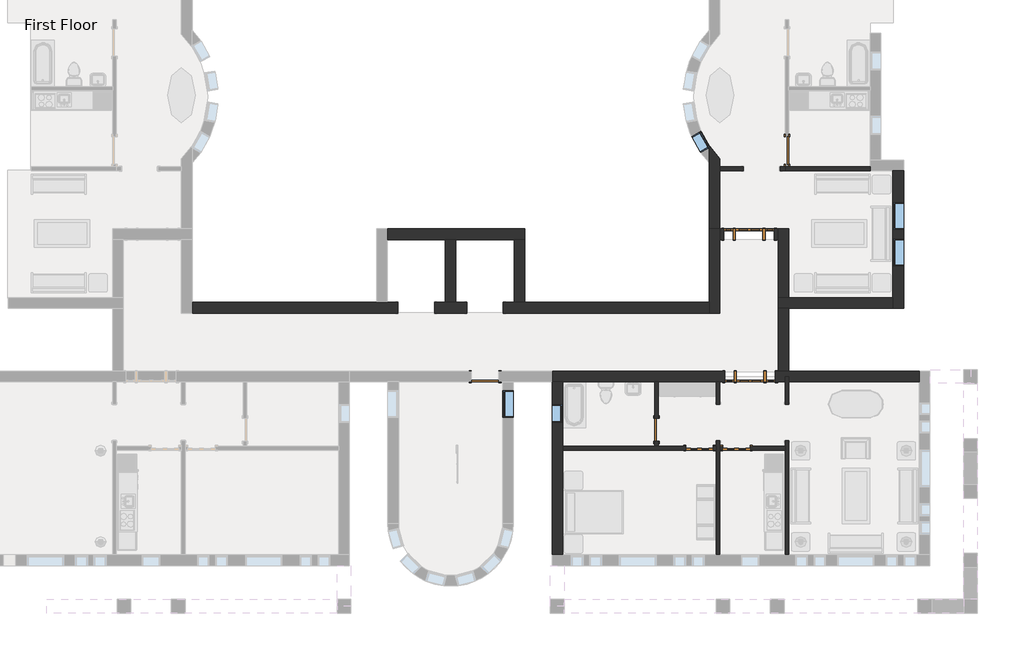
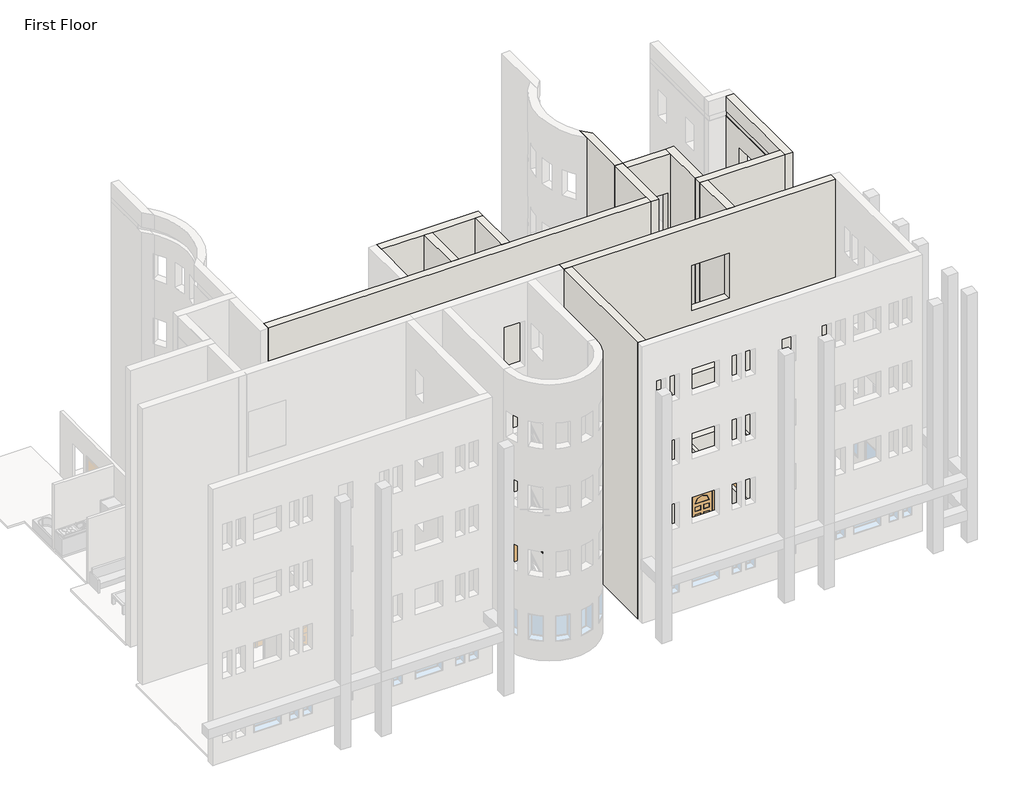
# One storey, part 6 of 24: 20 walls, 7 doors, 5 windows.
"""IFC4 building model written with IfcOpenShell, lengths in millimetres."""

from ifc_helpers import new_model, si_unit, frame, origin, origin_with_axes, place, context, project, spatial, polyline, circle_curve, outline, extrude, faceted_brep, transform, mapped, element, save
from ifc_brep_helpers import plane_surface, revolved_surface, advanced_brep
from components import door_829da954, door_2e3b4da2, door_e36758a9, door_a1797ceb, door_cc5399a4, door_dba5aa2e, door_ffdb1193, window_ed80354a, window_15c49d37, window_0e2fc6ce

model = new_model("IFC4")

# Units and contexts
model_context = context("Model", 3, world=origin())
ifc_project = project(units=[si_unit("LENGTHUNIT", "METRE", prefix="MILLI")], contexts=[model_context])

# Site, building, storey
site = spatial("IfcSite", under=ifc_project)
building = spatial("IfcBuilding", under=site)
storey = spatial("IfcBuildingStorey", under=building, Name="First Floor", Elevation=0.0)

# Doors
placement = place(None, origin())
door_shape = door_829da954(model_context)
element("IfcDoor", 1, ObjectType="Single-Decorative 2 : 36\" x 84\"", at=placement, inside=storey, context=model_context, shape_type="MappedRepresentation", body=[
    mapped(door_shape, transform((-6669.0589563, -30331.8808133, 0.0), x_axis=(1.0, 0.0, 0.0), y_axis=(0.0, 1.0, 0.0), z_axis=(0.0, 0.0, 1.0))),
])
door_2_shape = door_2e3b4da2(model_context)
element("IfcDoor", 2, ObjectType="Single-Decorative 2 : 36\" x 84\"", at=placement, inside=storey, context=model_context, shape_type="MappedRepresentation", body=[
    mapped(door_2_shape, transform((-5449.8589563, -30331.8808133, 0.0), x_axis=(-1.0, 0.0, 0.0), y_axis=(0.0, -1.0, 0.0), z_axis=(0.0, 0.0, 1.0))),
])
door_3_shape = door_e36758a9(model_context)
element("IfcDoor", 3, ObjectType="Single-Flush : 30\" x 84\"", at=placement, inside=storey, context=model_context, shape_type="MappedRepresentation", body=[
    mapped(door_3_shape, transform((-8105.7464563, -29722.2808133, 0.0), x_axis=(0.0, -1.0, 0.0), y_axis=(1.0, 0.0, 0.0), z_axis=(0.0, 0.0, 1.0))),
])
door_4_shape = door_a1797ceb(model_context)
element("IfcDoor", 4, ObjectType="Single-Flush : 36\" x 84\"", at=placement, inside=storey, context=model_context, shape_type="MappedRepresentation", body=[
    mapped(door_4_shape, transform((-3773.4589563, -20451.2808133, 0.0), x_axis=(0.0, -1.0, 0.0), y_axis=(1.0, 0.0, 0.0), z_axis=(0.0, 0.0, 1.0))),
])
door_5_shape = door_cc5399a4(model_context)
element("IfcDoor", 5, ObjectType="Single-Flush : 36\" x 84\"", at=placement, inside=storey, context=model_context, shape_type="MappedRepresentation", body=[
    mapped(door_5_shape, transform((-13792.1714563, -27958.5683133, 0.0), x_axis=(1.0, 0.0, 0.0), y_axis=(0.0, 1.0, 0.0), z_axis=(0.0, 0.0, 1.0))),
])
door_6_shape = door_dba5aa2e(model_context)
element("IfcDoor", 6, ObjectType="Single-Raised Panel with Sidelights : 36\" x 84\"", at=placement, inside=storey, context=model_context, shape_type="MappedRepresentation", body=[
    mapped(door_6_shape, transform((-5029.1714563, -23234.1683133, 0.0), x_axis=(-1.0, 0.0, 0.0), y_axis=(0.0, -1.0, 0.0), z_axis=(0.0, 0.0, 1.0))),
])
door_7_shape = door_ffdb1193(model_context)
element("IfcDoor", 7, ObjectType="Single-Raised Panel with Sidelights : 36\" x 84\"", at=placement, inside=storey, context=model_context, shape_type="MappedRepresentation", body=[
    mapped(door_7_shape, transform((-4992.6589563, -27958.5683133, 0.0), x_axis=(-1.0, 0.0, 0.0), y_axis=(0.0, -1.0, 0.0), z_axis=(0.0, 0.0, 1.0))),
])

# Walls
element("IfcWall", 8, ObjectType="Exterior - Brick on Mtl. Stud", at=placement, inside=storey, context=model_context, shape_type="Brep", body=[
    faceted_brep([(-5830.8589563, -27782.3558133, 2133.6), (-5830.8589563, -27782.3558133, 0.0), (-11571.2589563, -27782.3558133, 0.0), (-11571.2589563, -27782.3558133, 13106.4), (-4062.3839563, -27782.3558133, 13106.4), (-3709.9589563, -27782.3558133, 13106.4), (622.3285437, -27782.3558133, 13106.4), (622.3285437, -27782.3558133, 0.0), (-3709.9589563, -27782.3558133, 0.0), (-4062.3839563, -27782.3558133, 0.0), (-4154.4589563, -27782.3558133, 0.0), (-4154.4589563, -27782.3558133, 2133.6), (-4154.4589563, -27782.3558133, 6096.0), (-4154.4589563, -27782.3558133, 8229.6), (-5830.8589563, -27782.3558133, 8229.6), (-5830.8589563, -27782.3558133, 6096.0), (-4154.4589563, -27782.3558133, 3048.0), (-4154.4589563, -27782.3558133, 5181.6), (-5830.8589563, -27782.3558133, 5181.6), (-5830.8589563, -27782.3558133, 3048.0), (-4154.4589563, -27782.3558133, 9144.0), (-4154.4589563, -27782.3558133, 11277.6), (-5830.8589563, -27782.3558133, 11277.6), (-5830.8589563, -27782.3558133, 9144.0), (-11571.2589563, -28134.7808133, 0.0), (-11569.6714563, -28134.7808133, 0.0), (-11217.2464563, -28134.7808133, 0.0), (-8169.2464563, -28134.7808133, 0.0), (-8042.2464563, -28134.7808133, 0.0), (-6122.9589563, -28134.7808133, 0.0), (-5995.9589563, -28134.7808133, 0.0), (-5830.8589563, -28134.7808133, 0.0), (-5830.8589563, -28134.7808133, 2133.6), (-4154.4589563, -28134.7808133, 2133.6), (-4154.4589563, -28134.7808133, 0.0), (622.3285437, -28134.7808133, 0.0), (622.3285437, -28134.7808133, 13106.4), (-11217.2464563, -28134.7808133, 13106.4), (-11569.6714563, -28134.7808133, 13106.4), (-11571.2589563, -28134.7808133, 13106.4), (-4154.4589563, -28134.7808133, 6096.0), (-5830.8589563, -28134.7808133, 6096.0), (-5830.8589563, -28134.7808133, 8229.6), (-4154.4589563, -28134.7808133, 8229.6), (-4154.4589563, -28134.7808133, 3048.0), (-5830.8589563, -28134.7808133, 3048.0), (-5830.8589563, -28134.7808133, 5181.6), (-4154.4589563, -28134.7808133, 5181.6), (-4154.4589563, -28134.7808133, 9144.0), (-5830.8589563, -28134.7808133, 9144.0), (-5830.8589563, -28134.7808133, 11277.6), (-4154.4589563, -28134.7808133, 11277.6)], [[[0, 1, 2, 3, 4, 5, 6, 7, 8, 9, 10, 11], [12, 13, 14, 15], [16, 17, 18, 19], [20, 21, 22, 23]], [[24, 25, 26, 27, 28, 29, 30, 31, 32, 33, 34, 35, 36, 37, 38, 39], [40, 41, 42, 43], [44, 45, 46, 47], [48, 49, 50, 51]], [[2, 1, 31, 30, 29, 28, 27, 26, 25, 24]], [[10, 9, 8, 7, 35, 34]], [[3, 2, 24, 39]], [[6, 5, 4, 3, 39, 38, 37, 36]], [[7, 6, 36, 35]], [[32, 31, 1, 0]], [[33, 32, 0, 11]], [[34, 33, 11, 10]], [[41, 40, 12, 15]], [[42, 41, 15, 14]], [[43, 42, 14, 13]], [[40, 43, 13, 12]], [[45, 44, 16, 19]], [[46, 45, 19, 18]], [[47, 46, 18, 17]], [[44, 47, 17, 16]], [[49, 48, 20, 23]], [[50, 49, 23, 22]], [[51, 50, 22, 21]], [[48, 51, 21, 20]]]),
])
element("IfcWall", 9, ObjectType="Exterior - Brick on Mtl. Stud", at=placement, inside=storey, context=model_context, shape_type="Brep", body=[
    faceted_brep([(-11569.6714563, -28134.7808133, 0.0), (-11569.6714563, -33878.3558133, 0.0), (-11569.6714563, -33878.3558133, 13106.4), (-11569.6714563, -28134.7808133, 13106.4), (-11569.6714563, -28872.9683133, 8229.6), (-11569.6714563, -29482.5683133, 8229.6), (-11569.6714563, -29482.5683133, 7010.4), (-11569.6714563, -28872.9683133, 7010.4), (-11569.6714563, -28872.9683133, 5181.6), (-11569.6714563, -29482.5683133, 5181.6), (-11569.6714563, -29482.5683133, 3962.4), (-11569.6714563, -28872.9683133, 3962.4), (-11569.6714563, -28872.9683133, 11277.6), (-11569.6714563, -29482.5683133, 11277.6), (-11569.6714563, -29482.5683133, 10058.4), (-11569.6714563, -28872.9683133, 10058.4), (-11569.6714563, -28872.9683133, 2133.6), (-11569.6714563, -29482.5683133, 2133.6), (-11569.6714563, -29482.5683133, 914.4), (-11569.6714563, -28872.9683133, 914.4), (-11217.2464563, -28134.7808133, 0.0), (-11217.2464563, -28134.7808133, 13106.4), (-11217.2464563, -33878.3558133, 13106.4), (-11217.2464563, -33878.3558133, 0.0), (-11217.2464563, -30395.3808133, 0.0), (-11217.2464563, -30268.3808133, 0.0), (-11217.2464563, -28872.9683133, 8229.6), (-11217.2464563, -28872.9683133, 7010.4), (-11217.2464563, -29482.5683133, 7010.4), (-11217.2464563, -29482.5683133, 8229.6), (-11217.2464563, -28872.9683133, 5181.6), (-11217.2464563, -28872.9683133, 3962.4), (-11217.2464563, -29482.5683133, 3962.4), (-11217.2464563, -29482.5683133, 5181.6), (-11217.2464563, -28872.9683133, 11277.6), (-11217.2464563, -28872.9683133, 10058.4), (-11217.2464563, -29482.5683133, 10058.4), (-11217.2464563, -29482.5683133, 11277.6), (-11217.2464563, -28872.9683133, 2133.6), (-11217.2464563, -28872.9683133, 914.4), (-11217.2464563, -29482.5683133, 914.4), (-11217.2464563, -29482.5683133, 2133.6), (-11382.3464563, -28134.7808133, 0.0), (-11382.3464563, -33878.3558133, 0.0)], [[[0, 1, 2, 3], [4, 5, 6, 7], [8, 9, 10, 11], [12, 13, 14, 15], [16, 17, 18, 19]], [[20, 21, 22, 23, 24, 25], [26, 27, 28, 29], [30, 31, 32, 33], [34, 35, 36, 37], [38, 39, 40, 41]], [[3, 2, 22, 21]], [[0, 3, 21, 20, 42]], [[2, 1, 43, 23, 22]], [[1, 0, 42, 43]], [[42, 20, 25, 24, 23, 43]], [[27, 26, 4, 7]], [[28, 27, 7, 6]], [[29, 28, 6, 5]], [[26, 29, 5, 4]], [[31, 30, 8, 11]], [[32, 31, 11, 10]], [[33, 32, 10, 9]], [[30, 33, 9, 8]], [[35, 34, 12, 15]], [[36, 35, 15, 14]], [[37, 36, 14, 13]], [[34, 37, 13, 12]], [[39, 38, 16, 19]], [[40, 39, 19, 18]], [[41, 40, 18, 17]], [[38, 41, 17, 16]]]),
])
element("IfcWall", 10, ObjectType="Exterior - Brick on Mtl. Stud", at=placement, inside=storey, context=model_context, shape_type="Brep", body=[
    faceted_brep([(-17044.9589563, -23410.3808133, 0.0), (-15111.3839563, -23410.3808133, 0.0), (-14758.9589563, -23410.3808133, 0.0), (-12825.3839563, -23410.3808133, 0.0), (-12472.9589563, -23410.3808133, 0.0), (-12472.9589563, -23410.3808133, 13106.4), (-12825.3839563, -23410.3808133, 13106.4), (-14758.9589563, -23410.3808133, 13106.4), (-15111.3839563, -23410.3808133, 13106.4), (-17044.9589563, -23410.3808133, 13106.4), (-17044.9589563, -23057.9558133, 0.0), (-17044.9589563, -23057.9558133, 13106.4), (-12472.9589563, -23057.9558133, 13106.4), (-12472.9589563, -23057.9558133, 0.0)], [[[0, 1, 2, 3, 4, 5, 6, 7, 8, 9]], [[10, 11, 12, 13]], [[4, 3, 2, 1, 0, 10, 13]], [[9, 8, 7, 6, 5, 12, 11]], [[5, 4, 13, 12]], [[0, 9, 11, 10]]]),
])
element("IfcWall", 11, ObjectType="Exterior - Brick on Mtl. Stud", at=placement, inside=storey, context=model_context, shape_type="SweptSolid", body=[
    extrude(outline(polyline([(-12825.3839563, -25496.3558133), (-12825.3839563, -23410.3808133), (-12472.9589563, -23410.3808133), (-12472.9589563, -25496.3558133), (-12825.3839563, -25496.3558133)])), origin_with_axes(), (0.0, 0.0, 1.0), 13106.4),
])
element("IfcWall", 12, ObjectType="Exterior - Brick on Mtl. Stud", at=placement, inside=storey, context=model_context, shape_type="Brep", body=[
    faceted_brep([(-15468.5714563, -25848.7808133, 0.0), (-14401.7714563, -25848.7808133, 0.0), (-14401.7714563, -25848.7808133, 2133.6), (-13182.5714563, -25848.7808133, 2133.6), (-13182.5714563, -25848.7808133, 0.0), (-6348.3839563, -25848.7808133, 0.0), (-6348.3839563, -25848.7808133, 13106.4), (-23521.9589563, -25848.7808133, 13106.4), (-23521.9589563, -25848.7808133, 0.0), (-16687.7714563, -25848.7808133, 0.0), (-16687.7714563, -25848.7808133, 2133.6), (-15468.5714563, -25848.7808133, 2133.6), (-15468.5714563, -25848.7808133, 11277.6), (-15468.5714563, -25848.7808133, 9144.0), (-16687.7714563, -25848.7808133, 9144.0), (-16687.7714563, -25848.7808133, 11277.6), (-13182.5714563, -25848.7808133, 11277.6), (-13182.5714563, -25848.7808133, 9144.0), (-14401.7714563, -25848.7808133, 9144.0), (-14401.7714563, -25848.7808133, 11277.6), (-15468.5714563, -25848.7808133, 5181.6), (-15468.5714563, -25848.7808133, 3048.0), (-16687.7714563, -25848.7808133, 3048.0), (-16687.7714563, -25848.7808133, 5181.6), (-13182.5714563, -25848.7808133, 5181.6), (-13182.5714563, -25848.7808133, 3048.0), (-14401.7714563, -25848.7808133, 3048.0), (-14401.7714563, -25848.7808133, 5181.6), (-15468.5714563, -25848.7808133, 8229.6), (-15468.5714563, -25848.7808133, 6096.0), (-16687.7714563, -25848.7808133, 6096.0), (-16687.7714563, -25848.7808133, 8229.6), (-13182.5714563, -25848.7808133, 8229.6), (-13182.5714563, -25848.7808133, 6096.0), (-14401.7714563, -25848.7808133, 6096.0), (-14401.7714563, -25848.7808133, 8229.6), (-14401.7714563, -25496.3558133, 2133.6), (-14401.7714563, -25496.3558133, 0.0), (-14758.9589563, -25496.3558133, 0.0), (-15111.3839563, -25496.3558133, 0.0), (-15468.5714563, -25496.3558133, 0.0), (-15468.5714563, -25496.3558133, 2133.6), (-16687.7714563, -25496.3558133, 2133.6), (-16687.7714563, -25496.3558133, 0.0), (-17044.9589563, -25496.3558133, 0.0), (-17397.3839563, -25496.3558133, 0.0), (-23521.9589563, -25496.3558133, 0.0), (-23521.9589563, -25496.3558133, 13106.4), (-17397.3839563, -25496.3558133, 13106.4), (-17044.9589563, -25496.3558133, 13106.4), (-15111.3839563, -25496.3558133, 13106.4), (-14758.9589563, -25496.3558133, 13106.4), (-12825.3839563, -25496.3558133, 13106.4), (-12472.9589563, -25496.3558133, 13106.4), (-6348.3839563, -25496.3558133, 13106.4), (-6348.3839563, -25496.3558133, 0.0), (-12472.9589563, -25496.3558133, 0.0), (-12825.3839563, -25496.3558133, 0.0), (-13182.5714563, -25496.3558133, 0.0), (-13182.5714563, -25496.3558133, 2133.6), (-15468.5714563, -25496.3558133, 11277.6), (-16687.7714563, -25496.3558133, 11277.6), (-16687.7714563, -25496.3558133, 9144.0), (-15468.5714563, -25496.3558133, 9144.0), (-13182.5714563, -25496.3558133, 11277.6), (-14401.7714563, -25496.3558133, 11277.6), (-14401.7714563, -25496.3558133, 9144.0), (-13182.5714563, -25496.3558133, 9144.0), (-15468.5714563, -25496.3558133, 5181.6), (-16687.7714563, -25496.3558133, 5181.6), (-16687.7714563, -25496.3558133, 3048.0), (-15468.5714563, -25496.3558133, 3048.0), (-13182.5714563, -25496.3558133, 5181.6), (-14401.7714563, -25496.3558133, 5181.6), (-14401.7714563, -25496.3558133, 3048.0), (-13182.5714563, -25496.3558133, 3048.0), (-15468.5714563, -25496.3558133, 8229.6), (-16687.7714563, -25496.3558133, 8229.6), (-16687.7714563, -25496.3558133, 6096.0), (-15468.5714563, -25496.3558133, 6096.0), (-13182.5714563, -25496.3558133, 8229.6), (-14401.7714563, -25496.3558133, 8229.6), (-14401.7714563, -25496.3558133, 6096.0), (-13182.5714563, -25496.3558133, 6096.0)], [[[0, 1, 2, 3, 4, 5, 6, 7, 8, 9, 10, 11], [12, 13, 14, 15], [16, 17, 18, 19], [20, 21, 22, 23], [24, 25, 26, 27], [28, 29, 30, 31], [32, 33, 34, 35]], [[36, 37, 38, 39, 40, 41, 42, 43, 44, 45, 46, 47, 48, 49, 50, 51, 52, 53, 54, 55, 56, 57, 58, 59], [60, 61, 62, 63], [64, 65, 66, 67], [68, 69, 70, 71], [72, 73, 74, 75], [76, 77, 78, 79], [80, 81, 82, 83]], [[46, 45, 44, 43, 9, 8]], [[40, 39, 38, 37, 1, 0]], [[58, 57, 56, 55, 5, 4]], [[7, 6, 54, 53, 52, 51, 50, 49, 48, 47]], [[6, 5, 55, 54]], [[8, 7, 47, 46]], [[0, 11, 41, 40]], [[10, 9, 43, 42]], [[11, 10, 42, 41]], [[4, 3, 59, 58]], [[2, 1, 37, 36]], [[3, 2, 36, 59]], [[13, 12, 60, 63]], [[14, 13, 63, 62]], [[15, 14, 62, 61]], [[12, 15, 61, 60]], [[17, 16, 64, 67]], [[18, 17, 67, 66]], [[19, 18, 66, 65]], [[16, 19, 65, 64]], [[21, 20, 68, 71]], [[22, 21, 71, 70]], [[23, 22, 70, 69]], [[20, 23, 69, 68]], [[25, 24, 72, 75]], [[26, 25, 75, 74]], [[27, 26, 74, 73]], [[24, 27, 73, 72]], [[29, 28, 76, 79]], [[30, 29, 79, 78]], [[31, 30, 78, 77]], [[28, 31, 77, 76]], [[33, 32, 80, 83]], [[34, 33, 83, 82]], [[35, 34, 82, 81]], [[32, 35, 81, 80]]]),
])
element("IfcWall", 13, ObjectType="Exterior - Brick on Mtl. Stud", at=placement, inside=storey, context=model_context, shape_type="SweptSolid", body=[
    extrude(outline(polyline([(-15111.3839563, -25496.3558133), (-15111.3839563, -23410.3808133), (-14758.9589563, -23410.3808133), (-14758.9589563, -25496.3558133), (-15111.3839563, -25496.3558133)])), origin_with_axes(), (0.0, 0.0, 1.0), 13106.4),
])
element("IfcWall", 14, ObjectType="Exterior - Brick on Mtl. Stud", at=placement, inside=storey, context=model_context, shape_type="Brep", body=[
    faceted_brep([(-5995.9589563, -25848.7808133, 0.0), (-5995.9589563, -23410.3808133, 0.0), (-5995.9589563, -23057.9558133, 0.0), (-5995.9589563, -23057.9558133, 12192.0), (-5995.9589563, -23057.9558133, 12420.6), (-5995.9589563, -23057.9558133, 13106.4), (-5995.9589563, -23410.3808133, 13106.4), (-5995.9589563, -25848.7808133, 13106.4), (-6348.3839563, -25848.7808133, 0.0), (-6348.3839563, -25848.7808133, 13106.4), (-6348.3839563, -25496.3558133, 13106.4), (-6348.3839563, -23057.9558133, 13106.4), (-6348.3839563, -23057.9558133, 0.0), (-6348.3839563, -25496.3558133, 0.0)], [[[0, 1, 2, 3, 4, 5, 6, 7]], [[8, 9, 10, 11, 12, 13]], [[2, 1, 0, 8, 13, 12]], [[7, 6, 5, 11, 10, 9]], [[0, 7, 9, 8]], [[5, 4, 3, 2, 12, 11]]]),
])
element("IfcWall", 15, ObjectType="Exterior - Brick on Mtl. Stud", at=placement, inside=storey, context=model_context, shape_type="SweptSolid", body=[
    extrude(outline(polyline([(-4062.3839563, -27782.3558133), (-4062.3839563, -25696.3808133), (-3709.9589563, -25696.3808133), (-3709.9589563, -27782.3558133), (-4062.3839563, -27782.3558133)])), origin_with_axes(), (0.0, 0.0, 1.0), 13106.4),
])
element("IfcWall", 16, ObjectType="Exterior - Brick on Mtl. Stud", at=placement, inside=storey, context=model_context, shape_type="Brep", body=[
    faceted_brep([(-252.3839563, -25343.9558133, 0.0), (-3709.9589563, -25343.9558133, 0.0), (-4062.3839563, -25343.9558133, 0.0), (-4062.3839563, -25343.9558133, 13106.4), (-3709.9589563, -25343.9558133, 13106.4), (-252.3839563, -25343.9558133, 13106.4), (-252.3839563, -25343.9558133, 12420.6), (-3709.9589563, -25343.9558133, 12420.6), (-3722.6589563, -25343.9558133, 12420.6), (-3722.6589563, -25343.9558133, 12192.0), (-3709.9589563, -25343.9558133, 12192.0), (-252.3839563, -25343.9558133, 12192.0), (-4062.3839563, -25696.3808133, 0.0), (-3709.9589563, -25696.3808133, 0.0), (-252.3839563, -25696.3808133, 0.0), (-252.3839563, -25696.3808133, 13106.4), (-3709.9589563, -25696.3808133, 13106.4), (-4062.3839563, -25696.3808133, 13106.4), (-252.3839563, -25356.6558133, 12192.0), (-252.3839563, -25356.6558133, 12420.6), (-3722.6589563, -25356.6558133, 12192.0), (-3722.6589563, -25356.6558133, 12420.6)], [[[0, 1, 2, 3, 4, 5, 6, 7, 8, 9, 10, 11]], [[12, 13, 14, 15, 16, 17]], [[2, 1, 0, 14, 13, 12]], [[5, 4, 3, 17, 16, 15]], [[3, 2, 12, 17]], [[5, 15, 14, 0, 11, 18, 19, 6]], [[9, 20, 18, 11, 10]], [[19, 21, 8, 7, 6]], [[20, 21, 19, 18]], [[21, 20, 9, 8]]]),
])
element("IfcWall", 17, ObjectType="Exterior - Brick on Mtl. Stud", at=placement, inside=storey, context=model_context, shape_type="Brep", body=[
    faceted_brep([(-3709.9589563, -25343.9558133, 0.0), (-3709.9589563, -23057.9558133, 0.0), (-3709.9589563, -23057.9558133, 12192.0), (-3709.9589563, -25343.9558133, 12192.0), (-3709.9589563, -23057.9558133, 13106.4), (-3709.9589563, -25343.9558133, 13106.4), (-3709.9589563, -25343.9558133, 12420.6), (-3709.9589563, -23057.9558133, 12420.6), (-4062.3839563, -23057.9558133, 0.0), (-4062.3839563, -23410.3808133, 0.0), (-4062.3839563, -25343.9558133, 0.0), (-4062.3839563, -25343.9558133, 13106.4), (-4062.3839563, -23410.3808133, 13106.4), (-4062.3839563, -23057.9558133, 13106.4), (-4062.3839563, -23057.9558133, 12420.6), (-4062.3839563, -23070.6558133, 12420.6), (-4062.3839563, -23070.6558133, 12192.0), (-4062.3839563, -23057.9558133, 12192.0), (-3722.6589563, -25343.9558133, 12192.0), (-3722.6589563, -25343.9558133, 12420.6), (-3722.6589563, -23070.6558133, 12192.0), (-3722.6589563, -23070.6558133, 12420.6)], [[[0, 1, 2, 3]], [[4, 5, 6, 7]], [[8, 9, 10, 11, 12, 13, 14, 15, 16, 17]], [[1, 0, 10, 9, 8]], [[5, 4, 13, 12, 11]], [[5, 11, 10, 0, 3, 18, 19, 6]], [[1, 8, 17, 2]], [[13, 4, 7, 14]], [[16, 20, 18, 3, 2, 17]], [[19, 21, 15, 14, 7, 6]], [[20, 21, 19, 18]], [[21, 20, 16, 15]]]),
])
element("IfcWall", 18, ObjectType="Exterior - Brick on Mtl. Stud", at=placement, inside=storey, context=model_context, shape_type="Brep", body=[
    faceted_brep([(-5995.9589563, -23057.9558133, 13106.4), (-4062.3839563, -23057.9558133, 13106.4), (-4062.3839563, -23057.9558133, 12420.6), (-5995.9589563, -23057.9558133, 12420.6), (-5867.3714563, -23057.9558133, 2133.6), (-5867.3714563, -23057.9558133, 0.0), (-5995.9589563, -23057.9558133, 0.0), (-5995.9589563, -23057.9558133, 12192.0), (-4062.3839563, -23057.9558133, 12192.0), (-4062.3839563, -23057.9558133, 0.0), (-4190.9714563, -23057.9558133, 0.0), (-4190.9714563, -23057.9558133, 2133.6), (-5867.3714563, -23057.9558133, 9144.0), (-4190.9714563, -23057.9558133, 9144.0), (-4190.9714563, -23057.9558133, 11277.6), (-5867.3714563, -23057.9558133, 11277.6), (-5867.3714563, -23057.9558133, 3048.0), (-4190.9714563, -23057.9558133, 3048.0), (-4190.9714563, -23057.9558133, 5181.6), (-5867.3714563, -23057.9558133, 5181.6), (-5867.3714563, -23057.9558133, 6096.0), (-4190.9714563, -23057.9558133, 6096.0), (-4190.9714563, -23057.9558133, 8229.6), (-5867.3714563, -23057.9558133, 8229.6), (-4062.3839563, -23410.3808133, 13106.4), (-5995.9589563, -23410.3808133, 13106.4), (-5995.9589563, -23410.3808133, 0.0), (-5867.3714563, -23410.3808133, 0.0), (-5867.3714563, -23410.3808133, 2133.6), (-4190.9714563, -23410.3808133, 2133.6), (-4190.9714563, -23410.3808133, 0.0), (-4062.3839563, -23410.3808133, 0.0), (-4190.9714563, -23410.3808133, 9144.0), (-5867.3714563, -23410.3808133, 9144.0), (-5867.3714563, -23410.3808133, 11277.6), (-4190.9714563, -23410.3808133, 11277.6), (-4190.9714563, -23410.3808133, 3048.0), (-5867.3714563, -23410.3808133, 3048.0), (-5867.3714563, -23410.3808133, 5181.6), (-4190.9714563, -23410.3808133, 5181.6), (-4190.9714563, -23410.3808133, 6096.0), (-5867.3714563, -23410.3808133, 6096.0), (-5867.3714563, -23410.3808133, 8229.6), (-4190.9714563, -23410.3808133, 8229.6), (-4062.3839563, -23070.6558133, 12192.0), (-4062.3839563, -23070.6558133, 12420.6), (-5995.9589563, -23070.6558133, 12420.6), (-5995.9589563, -23070.6558133, 12192.0)], [[[0, 1, 2, 3]], [[4, 5, 6, 7, 8, 9, 10, 11], [12, 13, 14, 15], [16, 17, 18, 19], [20, 21, 22, 23]], [[24, 25, 26, 27, 28, 29, 30, 31], [32, 33, 34, 35], [36, 37, 38, 39], [40, 41, 42, 43]], [[9, 31, 30, 10]], [[26, 6, 5, 27]], [[1, 0, 25, 24]], [[1, 24, 31, 9, 8, 44, 45, 2]], [[6, 26, 25, 0, 3, 46, 47, 7]], [[28, 27, 5, 4]], [[29, 28, 4, 11]], [[30, 29, 11, 10]], [[33, 32, 13, 12]], [[34, 33, 12, 15]], [[35, 34, 15, 14]], [[32, 35, 14, 13]], [[37, 36, 17, 16]], [[38, 37, 16, 19]], [[39, 38, 19, 18]], [[36, 39, 18, 17]], [[41, 40, 21, 20]], [[42, 41, 20, 23]], [[43, 42, 23, 22]], [[40, 43, 22, 21]], [[47, 44, 8, 7]], [[45, 46, 3, 2]], [[44, 47, 46, 45]]]),
])
element("IfcWall", 19, ObjectType="Exterior - Brick on Mtl. Stud", at=placement, inside=storey, context=model_context, shape_type="AdvancedBrep", body=[
    advanced_brep(
    [(-5995.9589563, -23057.9558133, 0.0), (-5995.9589563, -21124.3808133, 0.0), (-5995.9589563, -20997.3808133, 0.0), (-5995.9589563, -20722.552661, 0.0), (-5995.9589563, -20722.552661, 12192.0), (-5995.9589563, -20997.3808133, 12192.0), (-5995.9589563, -21124.3808133, 12192.0), (-5995.9589563, -23057.9558133, 12192.0), (-5995.9589563, -20722.552661, 13106.4), (-5995.9589563, -23057.9558133, 13106.4), (-5995.9589563, -23057.9558133, 12420.6), (-5995.9589563, -20722.552661, 12420.6), (-6348.3839563, -20308.6589631, 0.0), (-6348.3839563, -20866.5535473, 0.0), (-6348.3839563, -23057.9558133, 0.0), (-6348.3839563, -23057.9558133, 13106.4), (-6348.3839563, -20866.5535473, 13106.4), (-6348.3839563, -20308.6589631, 13106.4), (-6348.3839563, -20308.6589631, 12420.6), (-6348.3839563, -20617.1458841, 12420.6), (-6348.3839563, -20617.1458841, 12192.0), (-6348.3839563, -20308.6589631, 12192.0), (-6348.3839563, -20308.6589631, 11277.6), (-6348.3839563, -20357.947211, 11277.6), (-6348.3839563, -20357.947211, 10058.4), (-6348.3839563, -20308.6589631, 10058.4), (-6348.3839563, -20308.6589631, 8229.6), (-6348.3839563, -20357.947211, 8229.6), (-6348.3839563, -20357.947211, 7010.4), (-6348.3839563, -20308.6589631, 7010.4), (-6348.3839563, -20308.6589631, 5181.6), (-6348.3839563, -20357.947211, 5181.6), (-6348.3839563, -20357.947211, 3962.4), (-6348.3839563, -20308.6589631, 3962.4), (-6348.3839563, -20308.6589631, 2133.6), (-6348.3839563, -20357.947211, 2133.6), (-6348.3839563, -20357.947211, 914.4), (-6348.3839563, -20308.6589631, 914.4), (-6342.8279046, -20316.5704649, 914.4), (-6342.8279046, -20316.5704649, 2133.6), (-6342.8279046, -20316.5704649, 3962.4), (-6342.8279046, -20316.5704649, 5181.6), (-6342.8279046, -20316.5704649, 7010.4), (-6342.8279046, -20316.5704649, 8229.6), (-6342.8279046, -20316.5704649, 10058.4), (-6342.8279046, -20316.5704649, 11277.6), (-6008.6589563, -23057.9558133, 12192.0), (-6008.6589563, -23057.9558133, 12420.6), (-6326.370745, -20345.3664793, 914.4), (-6326.370745, -20345.3664793, 2133.6), (-6326.370745, -20345.3664793, 10058.4), (-6326.370745, -20345.3664793, 11277.6), (-6326.370745, -20345.3664793, 3962.4), (-6326.370745, -20345.3664793, 5181.6), (-6326.370745, -20345.3664793, 7010.4), (-6326.370745, -20345.3664793, 8229.6), (-6008.6589563, -20965.4736866, 12192.0), (-6008.6589563, -20965.4736866, 12420.6)],
    [
        (0, 1),
        (1, 2),
        (2, 3),
        (3, 4),
        (4, 5),
        (5, 6),
        (6, 7),
        (7, 0),
        (8, 9),
        (9, 10),
        (10, 11),
        (11, 8),
        (12, 13),
        (13, 14),
        (14, 15),
        (15, 16),
        (16, 17),
        (17, 18),
        (18, 19),
        (19, 20),
        (20, 21),
        (21, 22),
        (22, 23),
        (23, 24),
        (24, 25),
        (25, 26),
        (26, 27),
        (27, 28),
        (28, 29),
        (29, 30),
        (30, 31),
        (31, 32),
        (32, 33),
        (33, 34),
        (34, 35),
        (35, 36),
        (36, 37),
        (37, 12),
        (0, 14),
        (12, 3, circle_curve(frame((-3995.4640713, -18662.1683133, 0.0), z_axis=(0.0, 0.0, 1.0), x_axis=(0.0, -1.0, 0.0)), 2871.7875)),
        (8, 17, circle_curve(frame((-3995.4640713, -18662.1683133, 13106.4), z_axis=(0.0, 0.0, -1.0), x_axis=(0.0, -1.0, 0.0)), 2871.7875)),
        (15, 9),
        (37, 38, circle_curve(frame((-3995.4640713, -18662.1683133, 914.4), z_axis=(0.0, 0.0, 1.0), x_axis=(0.0, -1.0, 0.0)), 2871.7875)),
        (38, 39),
        (39, 34, circle_curve(frame((-3995.4640713, -18662.1683133, 2133.6), z_axis=(0.0, 0.0, -1.0), x_axis=(0.0, -1.0, 0.0)), 2871.7875)),
        (33, 40, circle_curve(frame((-3995.4640713, -18662.1683133, 3962.4), z_axis=(0.0, 0.0, 1.0), x_axis=(0.0, -1.0, 0.0)), 2871.7875)),
        (40, 41),
        (41, 30, circle_curve(frame((-3995.4640713, -18662.1683133, 5181.6), z_axis=(0.0, 0.0, -1.0), x_axis=(0.0, -1.0, 0.0)), 2871.7875)),
        (29, 42, circle_curve(frame((-3995.4640713, -18662.1683133, 7010.4), z_axis=(0.0, 0.0, 1.0), x_axis=(0.0, -1.0, 0.0)), 2871.7875)),
        (42, 43),
        (43, 26, circle_curve(frame((-3995.4640713, -18662.1683133, 8229.6), z_axis=(0.0, 0.0, -1.0), x_axis=(0.0, -1.0, 0.0)), 2871.7875)),
        (25, 44, circle_curve(frame((-3995.4640713, -18662.1683133, 10058.4), z_axis=(0.0, 0.0, 1.0), x_axis=(0.0, -1.0, 0.0)), 2871.7875)),
        (44, 45),
        (45, 22, circle_curve(frame((-3995.4640713, -18662.1683133, 11277.6), z_axis=(0.0, 0.0, -1.0), x_axis=(0.0, -1.0, 0.0)), 2871.7875)),
        (21, 4, circle_curve(frame((-3995.4640713, -18662.1683133, 12192.0), z_axis=(0.0, 0.0, 1.0), x_axis=(0.0, -1.0, 0.0)), 2871.7875)),
        (11, 18, circle_curve(frame((-3995.4640713, -18662.1683133, 12420.6), z_axis=(0.0, 0.0, -1.0), x_axis=(0.0, -1.0, 0.0)), 2871.7875)),
        (7, 46),
        (46, 47),
        (47, 10),
        (48, 49),
        (49, 39),
        (38, 48),
        (36, 48),
        (35, 49),
        (50, 51),
        (51, 45),
        (44, 50),
        (24, 50),
        (23, 51),
        (52, 53),
        (53, 41),
        (40, 52),
        (32, 52),
        (31, 53),
        (54, 55),
        (55, 43),
        (42, 54),
        (28, 54),
        (27, 55),
        (20, 56, circle_curve(frame((-3995.4640713, -18662.1683133, 12192.0), z_axis=(0.0, 0.0, 1.0), x_axis=(0.0, -1.0, 0.0)), 3059.1125)),
        (56, 46),
        (47, 57),
        (57, 19, circle_curve(frame((-3995.4640713, -18662.1683133, 12420.6), z_axis=(0.0, 0.0, -1.0), x_axis=(0.0, -1.0, 0.0)), 3059.1125)),
        (56, 57),
    ],
    [
        plane_surface(frame((-5995.9589563, -23234.1683133, 0.0), z_axis=(1.0, 0.0, 0.0), x_axis=(0.0, 1.0, 0.0))),
        plane_surface(frame((-6348.3839563, -23234.1683133, 0.0), z_axis=(-1.0, 0.0, 0.0), x_axis=(0.0, -1.0, 0.0))),
        plane_surface(frame((-5995.9589563, -23234.1683133, 0.0), z_axis=(0.0, 0.0, -1.0), x_axis=(-1.0, 0.0, 0.0))),
        plane_surface(frame((-5995.9589563, -20795.7683133, 13106.4), z_axis=(0.0, 0.0, 1.0), x_axis=(-1.0, 0.0, 0.0))),
        revolved_surface(polyline([(-3995.4640713, -21533.9558133, 0.0), (-3995.4640713, -21533.9558133, 12192.0)]), (-3995.4640713, -18662.1683133, 0.0), (0.0, 0.0, -1.0)),
        revolved_surface(polyline([(-3995.4640713, -21533.9558133, 12420.6), (-3995.4640713, -21533.9558133, 13106.4)]), (-3995.4640713, -18662.1683133, 0.0), (0.0, 0.0, -1.0)),
        plane_surface(frame((-3886.1714563, -23057.9558133, 0.0), z_axis=(0.0, -1.0, 0.0), x_axis=(-1.0, 0.0, 0.0))),
        plane_surface(frame((-6628.8488292, -19816.1036253, 2133.6), z_axis=(-0.8682133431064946, -0.4961910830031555, 0.0), x_axis=(0.0, 0.0, 1.0))),
        plane_surface(frame((-6933.4570928, -19990.1897592, 914.4), z_axis=(0.0, 0.0, 1.0), x_axis=(0.8682133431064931, 0.496191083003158, 0.0))),
        plane_surface(frame((-6630.9790086, -20519.4526131, 914.4), z_axis=(-0.496191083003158, 0.8682133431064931, 0.0), x_axis=(0.8682133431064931, 0.496191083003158, 0.0))),
        plane_surface(frame((-6630.9790086, -20519.4526131, 2133.6), z_axis=(0.0, 0.0, -1.0), x_axis=(0.8682133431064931, 0.496191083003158, 0.0))),
        plane_surface(frame((-6628.8488292, -19816.1036253, 11277.6), z_axis=(-0.8682133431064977, -0.4961910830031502, 0.0), x_axis=(0.0, 0.0, 1.0))),
        plane_surface(frame((-6933.4570928, -19990.1897592, 10058.4), z_axis=(0.0, 0.0, 1.0), x_axis=(0.8682133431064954, 0.496191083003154, 0.0))),
        plane_surface(frame((-6630.9790086, -20519.4526131, 10058.4), z_axis=(-0.4961910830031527, 0.8682133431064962, 0.0), x_axis=(0.8682133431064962, 0.4961910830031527, 0.0))),
        plane_surface(frame((-6630.9790086, -20519.4526131, 11277.6), z_axis=(0.0, 0.0, -1.0), x_axis=(0.8682133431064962, 0.4961910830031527, 0.0))),
        plane_surface(frame((-6628.8488292, -19816.1036253, 5181.6), z_axis=(-0.8682133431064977, -0.4961910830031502, 0.0), x_axis=(0.0, 0.0, 1.0))),
        plane_surface(frame((-6933.4570928, -19990.1897592, 3962.4), z_axis=(0.0, 0.0, 1.0), x_axis=(0.8682133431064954, 0.496191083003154, 0.0))),
        plane_surface(frame((-6630.9790086, -20519.4526131, 3962.4), z_axis=(-0.4961910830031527, 0.8682133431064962, 0.0), x_axis=(0.8682133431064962, 0.4961910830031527, 0.0))),
        plane_surface(frame((-6630.9790086, -20519.4526131, 5181.6), z_axis=(0.0, 0.0, -1.0), x_axis=(0.8682133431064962, 0.4961910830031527, 0.0))),
        plane_surface(frame((-6628.8488292, -19816.1036253, 8229.6), z_axis=(-0.8682133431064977, -0.4961910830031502, 0.0), x_axis=(0.0, 0.0, 1.0))),
        plane_surface(frame((-6933.4570928, -19990.1897592, 7010.4), z_axis=(0.0, 0.0, 1.0), x_axis=(0.8682133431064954, 0.496191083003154, 0.0))),
        plane_surface(frame((-6630.9790086, -20519.4526131, 7010.4), z_axis=(-0.4961910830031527, 0.8682133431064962, 0.0), x_axis=(0.8682133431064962, 0.4961910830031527, 0.0))),
        plane_surface(frame((-6630.9790086, -20519.4526131, 8229.6), z_axis=(0.0, 0.0, -1.0), x_axis=(0.8682133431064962, 0.4961910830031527, 0.0))),
        plane_surface(frame((-239.6839563, -11967.6808133, 12192.0), z_axis=(0.0, 0.0, 1.0), x_axis=(1.0, 0.0, 0.0))),
        plane_surface(frame((-239.6839563, -11967.6808133, 12420.6), z_axis=(0.0, 0.0, -1.0), x_axis=(1.0, 0.0, 0.0))),
        plane_surface(frame((-6008.6589563, -20965.4736866, 12192.0), z_axis=(1.0, 0.0, 0.0), x_axis=(0.0, -1.0, 0.0))),
        revolved_surface(polyline([(-3995.4640713, -21721.2808133, 12420.6), (-3995.4640713, -21721.2808133, 12192.0)]), (-3995.4640713, -18662.1683133, 12192.0), (0.0, 0.0, 1.0)),
    ],
    [
        (0, [[1, 2, 3, 4, 5, 6, 7, 8]]),
        (0, [[9, 10, 11, 12]]),
        (1, [[13, 14, 15, 16, 17, 18, 19, 20, 21, 22, 23, 24, 25, 26, 27, 28, 29, 30, 31, 32, 33, 34, 35, 36, 37, 38]]),
        (2, [[-3, -2, -1, 39, -14, -13, 40]]),
        (3, [[-9, 41, -17, -16, 42]]),
        (4, [[-40, -38, 43, 44, 45, -34, 46, 47, 48, -30, 49, 50, 51, -26, 52, 53, 54, -22, 55, -4]]),
        (5, [[-41, -12, 56, -18]]),
        (6, [[-42, -15, -39, -8, 57, 58, 59, -10]]),
        (7, [[60, 61, -44, 62]]),
        (8, [[63, -62, -43, -37]]),
        (9, [[-60, -63, -36, 64]]),
        (10, [[-64, -35, -45, -61]]),
        (11, [[65, 66, -53, 67]]),
        (12, [[68, -67, -52, -25]]),
        (13, [[-65, -68, -24, 69]]),
        (14, [[-69, -23, -54, -66]]),
        (15, [[70, 71, -47, 72]]),
        (16, [[73, -72, -46, -33]]),
        (17, [[-70, -73, -32, 74]]),
        (18, [[-74, -31, -48, -71]]),
        (19, [[75, 76, -50, 77]]),
        (20, [[78, -77, -49, -29]]),
        (21, [[-75, -78, -28, 79]]),
        (22, [[-79, -27, -51, -76]]),
        (23, [[80, 81, -57, -7, -6, -5, -55, -21]]),
        (24, [[82, 83, -19, -56, -11, -59]]),
        (25, [[84, -82, -58, -81]]),
        (26, [[-84, -80, -20, -83]]),
    ],
),
])
element("IfcWall", 20, ObjectType="Exterior - Brick on Mtl. Stud", at=placement, inside=storey, context=model_context, shape_type="Brep", body=[
    faceted_brep([(-252.3839563, -21124.3808133, 0.0), (-252.3839563, -25343.9558133, 0.0), (-252.3839563, -25696.3808133, 0.0), (-252.3839563, -25696.3808133, 13106.4), (-252.3839563, -25343.9558133, 13106.4), (-252.3839563, -21124.3808133, 13106.4), (-252.3839563, -21124.3808133, 12420.6), (-252.3839563, -25343.9558133, 12420.6), (-252.3839563, -25356.6558133, 12420.6), (-252.3839563, -25356.6558133, 12192.0), (-252.3839563, -25343.9558133, 12192.0), (-252.3839563, -21124.3808133, 12192.0), (-252.3839563, -23386.5683133, 914.4), (-252.3839563, -23386.5683133, 2133.6), (-252.3839563, -24300.9683133, 2133.6), (-252.3839563, -24300.9683133, 914.4), (-252.3839563, -22167.3683133, 914.4), (-252.3839563, -22167.3683133, 2133.6), (-252.3839563, -23081.7683133, 2133.6), (-252.3839563, -23081.7683133, 914.4), (-252.3839563, -23386.5683133, 10058.4), (-252.3839563, -23386.5683133, 11277.6), (-252.3839563, -24300.9683133, 11277.6), (-252.3839563, -24300.9683133, 10058.4), (-252.3839563, -22167.3683133, 10058.4), (-252.3839563, -22167.3683133, 11277.6), (-252.3839563, -23081.7683133, 11277.6), (-252.3839563, -23081.7683133, 10058.4), (-252.3839563, -23386.5683133, 3962.4), (-252.3839563, -23386.5683133, 5181.6), (-252.3839563, -24300.9683133, 5181.6), (-252.3839563, -24300.9683133, 3962.4), (-252.3839563, -22167.3683133, 3962.4), (-252.3839563, -22167.3683133, 5181.6), (-252.3839563, -23081.7683133, 5181.6), (-252.3839563, -23081.7683133, 3962.4), (-252.3839563, -23386.5683133, 7010.4), (-252.3839563, -23386.5683133, 8229.6), (-252.3839563, -24300.9683133, 8229.6), (-252.3839563, -24300.9683133, 7010.4), (-252.3839563, -22167.3683133, 7010.4), (-252.3839563, -22167.3683133, 8229.6), (-252.3839563, -23081.7683133, 8229.6), (-252.3839563, -23081.7683133, 7010.4), (100.0410437, -25696.3808133, 0.0), (100.0410437, -21124.3808133, 0.0), (100.0410437, -21124.3808133, 13106.4), (100.0410437, -25696.3808133, 13106.4), (100.0410437, -23386.5683133, 2133.6), (100.0410437, -23386.5683133, 914.4), (100.0410437, -24300.9683133, 914.4), (100.0410437, -24300.9683133, 2133.6), (100.0410437, -22167.3683133, 2133.6), (100.0410437, -22167.3683133, 914.4), (100.0410437, -23081.7683133, 914.4), (100.0410437, -23081.7683133, 2133.6), (100.0410437, -23386.5683133, 11277.6), (100.0410437, -23386.5683133, 10058.4), (100.0410437, -24300.9683133, 10058.4), (100.0410437, -24300.9683133, 11277.6), (100.0410437, -22167.3683133, 11277.6), (100.0410437, -22167.3683133, 10058.4), (100.0410437, -23081.7683133, 10058.4), (100.0410437, -23081.7683133, 11277.6), (100.0410437, -23386.5683133, 5181.6), (100.0410437, -23386.5683133, 3962.4), (100.0410437, -24300.9683133, 3962.4), (100.0410437, -24300.9683133, 5181.6), (100.0410437, -22167.3683133, 5181.6), (100.0410437, -22167.3683133, 3962.4), (100.0410437, -23081.7683133, 3962.4), (100.0410437, -23081.7683133, 5181.6), (100.0410437, -23386.5683133, 8229.6), (100.0410437, -23386.5683133, 7010.4), (100.0410437, -24300.9683133, 7010.4), (100.0410437, -24300.9683133, 8229.6), (100.0410437, -22167.3683133, 8229.6), (100.0410437, -22167.3683133, 7010.4), (100.0410437, -23081.7683133, 7010.4), (100.0410437, -23081.7683133, 8229.6), (-239.6839563, -21124.3808133, 12192.0), (-239.6839563, -21124.3808133, 12420.6), (-239.6839563, -25356.6558133, 12192.0), (-239.6839563, -25356.6558133, 12420.6)], [[[0, 1, 2, 3, 4, 5, 6, 7, 8, 9, 10, 11], [12, 13, 14, 15], [16, 17, 18, 19], [20, 21, 22, 23], [24, 25, 26, 27], [28, 29, 30, 31], [32, 33, 34, 35], [36, 37, 38, 39], [40, 41, 42, 43]], [[44, 45, 46, 47], [48, 49, 50, 51], [52, 53, 54, 55], [56, 57, 58, 59], [60, 61, 62, 63], [64, 65, 66, 67], [68, 69, 70, 71], [72, 73, 74, 75], [76, 77, 78, 79]], [[2, 1, 0, 45, 44]], [[5, 4, 3, 47, 46]], [[3, 2, 44, 47]], [[5, 46, 45, 0, 11, 80, 81, 6]], [[49, 48, 13, 12]], [[50, 49, 12, 15]], [[51, 50, 15, 14]], [[48, 51, 14, 13]], [[53, 52, 17, 16]], [[54, 53, 16, 19]], [[55, 54, 19, 18]], [[52, 55, 18, 17]], [[57, 56, 21, 20]], [[58, 57, 20, 23]], [[59, 58, 23, 22]], [[56, 59, 22, 21]], [[61, 60, 25, 24]], [[62, 61, 24, 27]], [[63, 62, 27, 26]], [[60, 63, 26, 25]], [[65, 64, 29, 28]], [[66, 65, 28, 31]], [[67, 66, 31, 30]], [[64, 67, 30, 29]], [[69, 68, 33, 32]], [[70, 69, 32, 35]], [[71, 70, 35, 34]], [[68, 71, 34, 33]], [[73, 72, 37, 36]], [[74, 73, 36, 39]], [[75, 74, 39, 38]], [[72, 75, 38, 37]], [[77, 76, 41, 40]], [[78, 77, 40, 43]], [[79, 78, 43, 42]], [[76, 79, 42, 41]], [[9, 82, 80, 11, 10]], [[81, 83, 8, 7, 6]], [[82, 83, 81, 80]], [[83, 82, 9, 8]]]),
])
element("IfcWall", 21, ObjectType="Interior - 5\" Partition (2-hr)", at=placement, inside=storey, context=model_context, shape_type="Brep", body=[
    faceted_brep([(-3709.9589563, -33878.3558133, 0.0), (-3709.9589563, -30092.1683133, 0.0), (-3709.9589563, -30092.1683133, 2133.6), (-3709.9589563, -28872.9683133, 2133.6), (-3709.9589563, -28872.9683133, 0.0), (-3709.9589563, -27958.5683133, 0.0), (-3709.9589563, -27958.5683133, 3048.0), (-3709.9589563, -33878.3558133, 3048.0), (-3836.9589563, -30092.1683133, 2133.6), (-3836.9589563, -30092.1683133, 0.0), (-3836.9589563, -30268.3808133, 0.0), (-3836.9589563, -30395.3808133, 0.0), (-3836.9589563, -33878.3558133, 0.0), (-3836.9589563, -33878.3558133, 3048.0), (-3836.9589563, -30395.3808133, 3048.0), (-3836.9589563, -30268.3808133, 3048.0), (-3836.9589563, -27958.5683133, 3048.0), (-3836.9589563, -27958.5683133, 0.0), (-3836.9589563, -28872.9683133, 0.0), (-3836.9589563, -28872.9683133, 2133.6)], [[[0, 1, 2, 3, 4, 5, 6, 7]], [[8, 9, 10, 11, 12, 13, 14, 15, 16, 17, 18, 19]], [[12, 11, 10, 9, 1, 0]], [[18, 17, 5, 4]], [[6, 5, 17, 16]], [[7, 6, 16, 15, 14, 13]], [[0, 7, 13, 12]], [[4, 3, 19, 18]], [[2, 1, 9, 8]], [[3, 2, 8, 19]]]),
])
element("IfcWall", 22, ObjectType="Interior - 5\" Partition (2-hr)", at=placement, inside=storey, context=model_context, shape_type="Brep", body=[
    faceted_brep([(-5995.9589563, -28872.9683133, 2133.6), (-5995.9589563, -28872.9683133, 0.0), (-5995.9589563, -28134.7808133, 0.0), (-5995.9589563, -28134.7808133, 3048.0), (-5995.9589563, -30268.3808133, 3048.0), (-5995.9589563, -30395.3808133, 3048.0), (-5995.9589563, -33878.3558133, 3048.0), (-5995.9589563, -33878.3558133, 0.0), (-5995.9589563, -30395.3808133, 0.0), (-5995.9589563, -30268.3808133, 0.0), (-5995.9589563, -30092.1683133, 0.0), (-5995.9589563, -30092.1683133, 2133.6), (-6122.9589563, -28134.7808133, 0.0), (-6122.9589563, -28872.9683133, 0.0), (-6122.9589563, -28872.9683133, 2133.6), (-6122.9589563, -30092.1683133, 2133.6), (-6122.9589563, -30092.1683133, 0.0), (-6122.9589563, -30268.3808133, 0.0), (-6122.9589563, -30395.3808133, 0.0), (-6122.9589563, -33878.3558133, 0.0), (-6122.9589563, -33878.3558133, 3048.0), (-6122.9589563, -30395.3808133, 3048.0), (-6122.9589563, -30268.3808133, 3048.0), (-6122.9589563, -28134.7808133, 3048.0)], [[[0, 1, 2, 3, 4, 5, 6, 7, 8, 9, 10, 11]], [[12, 13, 14, 15, 16, 17, 18, 19, 20, 21, 22, 23]], [[2, 1, 13, 12]], [[10, 9, 8, 7, 19, 18, 17, 16]], [[6, 5, 4, 3, 23, 22, 21, 20]], [[7, 6, 20, 19]], [[3, 2, 12, 23]], [[16, 15, 11, 10]], [[14, 13, 1, 0]], [[15, 14, 0, 11]]]),
])
element("IfcWall", 23, ObjectType="Interior - 5\" Partition (2-hr)", at=placement, inside=storey, context=model_context, shape_type="Brep", body=[
    faceted_brep([(-6211.8589563, -30395.3808133, 2133.6), (-6211.8589563, -30395.3808133, 0.0), (-6122.9589563, -30395.3808133, 0.0), (-6122.9589563, -30395.3808133, 3048.0), (-11217.2464563, -30395.3808133, 3048.0), (-11217.2464563, -30395.3808133, 0.0), (-7126.2589563, -30395.3808133, 0.0), (-7126.2589563, -30395.3808133, 2133.6), (-6122.9589563, -30268.3808133, 0.0), (-6211.8589563, -30268.3808133, 0.0), (-6211.8589563, -30268.3808133, 2133.6), (-7126.2589563, -30268.3808133, 2133.6), (-7126.2589563, -30268.3808133, 0.0), (-8042.2464563, -30268.3808133, 0.0), (-8169.2464563, -30268.3808133, 0.0), (-11217.2464563, -30268.3808133, 0.0), (-11217.2464563, -30268.3808133, 3048.0), (-8169.2464563, -30268.3808133, 3048.0), (-8042.2464563, -30268.3808133, 3048.0), (-6122.9589563, -30268.3808133, 3048.0)], [[[0, 1, 2, 3, 4, 5, 6, 7]], [[8, 9, 10, 11, 12, 13, 14, 15, 16, 17, 18, 19]], [[2, 1, 9, 8]], [[6, 5, 15, 14, 13, 12]], [[4, 3, 19, 18, 17, 16]], [[5, 4, 16, 15]], [[3, 2, 8, 19]], [[10, 9, 1, 0]], [[11, 10, 0, 7]], [[12, 11, 7, 6]]]),
])
element("IfcWall", 24, ObjectType="Interior - 5\" Partition (2-hr)", at=placement, inside=storey, context=model_context, shape_type="SweptSolid", body=[
    extrude(outline(polyline([(-30103.2808133, 2133.6), (-30103.2808133, 0.0), (-30268.3808133, 0.0), (-30268.3808133, 3048.0), (-28134.7808133, 3048.0), (-28134.7808133, 0.0), (-29341.2808133, 0.0), (-29341.2808133, 2133.6), (-30103.2808133, 2133.6)])), frame((-8169.2464563, 0.0, 0.0), z_axis=(1.0, 0.0, 0.0), x_axis=(0.0, 1.0, 0.0)), (0.0, 0.0, 1.0), 127.0),
])
element("IfcWall", 25, ObjectType="Interior - 5\" Partition (2-hr)", at=placement, inside=storey, context=model_context, shape_type="SweptSolid", body=[
    extrude(outline(polyline([(0.0, -5995.9589563), (0.0, -5907.0589563), (2133.6, -5907.0589563), (2133.6, -4992.6589563), (0.0, -4992.6589563), (0.0, -3836.9589563), (3048.0, -3836.9589563), (3048.0, -5995.9589563), (0.0, -5995.9589563)])), frame((0.0, -30395.3808133, 0.0), z_axis=(0.0, 1.0, 0.0), x_axis=(0.0, 0.0, 1.0)), (0.0, 0.0, 1.0), 127.0),
])
element("IfcWall", 26, ObjectType="Interior - 5\" Partition (2-hr)", at=placement, inside=storey, context=model_context, shape_type="Brep", body=[
    faceted_brep([(-1014.3839563, -20997.3808133, 0.0), (-3709.9589563, -20997.3808133, 0.0), (-3836.9589563, -20997.3808133, 0.0), (-3836.9589563, -20997.3808133, 3048.0), (-3709.9589563, -20997.3808133, 3048.0), (-1014.3839563, -20997.3808133, 3048.0), (-1014.3839563, -21124.3808133, 0.0), (-1014.3839563, -21124.3808133, 3048.0), (-3836.9589563, -21124.3808133, 3048.0), (-3836.9589563, -21124.3808133, 0.0)], [[[0, 1, 2, 3, 4, 5]], [[6, 7, 8, 9]], [[2, 1, 0, 6, 9]], [[5, 4, 3, 8, 7]], [[3, 2, 9, 8]], [[0, 5, 7, 6]]]),
])
element("IfcWall", 27, ObjectType="Interior - 5\" Partition (2-hr)", at=placement, inside=storey, context=model_context, shape_type="SweptSolid", body=[
    extrude(outline(polyline([(2133.6, -4002.0589563), (0.0, -4002.0589563), (0.0, -3836.9589563), (3048.0, -3836.9589563), (3048.0, -5995.9589563), (0.0, -5995.9589563), (0.0, -5221.2589563), (2133.6, -5221.2589563), (2133.6, -4002.0589563)])), frame((0.0, -21124.3808133, 0.0), z_axis=(0.0, 1.0, 0.0), x_axis=(0.0, 0.0, 1.0)), (0.0, 0.0, 1.0), 127.0),
])

# Windows
window_shape = window_ed80354a(model_context)
element("IfcWindow", 28, ObjectType="Fixed : 24\" x 48\"", at=placement, inside=storey, context=model_context, shape_type="MappedRepresentation", body=[
    mapped(window_shape, transform((-11393.4589563, -29139.6683133, 0.0), x_axis=(0.0, 1.0, 0.0), y_axis=(-1.0, 0.0, 0.0), z_axis=(0.0, 0.0, 1.0))),
])
element("IfcWindow", 29, ObjectType="Fixed : 24\" x 48\"", at=placement, inside=storey, context=model_context, shape_type="MappedRepresentation", body=[
    mapped(window_shape, transform((-6646.5999888, -20133.4311225, 0.0), x_axis=(-0.4961910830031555, 0.8682133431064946, 0.0), y_axis=(-0.8682133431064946, -0.4961910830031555, 0.0), z_axis=(0.0, 0.0, 1.0))),
])
window_2_shape = window_15c49d37(model_context)
element("IfcWindow", 30, ObjectType="Fixed : 36\" x 48\"", at=placement, inside=storey, context=model_context, shape_type="MappedRepresentation", body=[
    mapped(window_2_shape, transform((-76.1714563, -23805.6683133, 0.0), x_axis=(0.0, 1.0, 0.0), y_axis=(-1.0, 0.0, 0.0), z_axis=(0.0, 0.0, 1.0))),
])
element("IfcWindow", 31, ObjectType="Fixed : 36\" x 48\"", at=placement, inside=storey, context=model_context, shape_type="MappedRepresentation", body=[
    mapped(window_2_shape, transform((-76.1714563, -22586.4683133, 0.0), x_axis=(0.0, 1.0, 0.0), y_axis=(-1.0, 0.0, 0.0), z_axis=(0.0, 0.0, 1.0))),
])
window_3_shape = window_0e2fc6ce(model_context)
element("IfcWindow", 32, ObjectType="Fixed : 36\" x 48\"", at=placement, inside=storey, context=model_context, shape_type="MappedRepresentation", body=[
    mapped(window_3_shape, transform((-13030.1714563, -28911.0683133, 0.0), x_axis=(0.0, -1.0, 0.0), y_axis=(1.0, 0.0, 0.0), z_axis=(0.0, 0.0, 1.0))),
])

save(model, "model.ifc")
